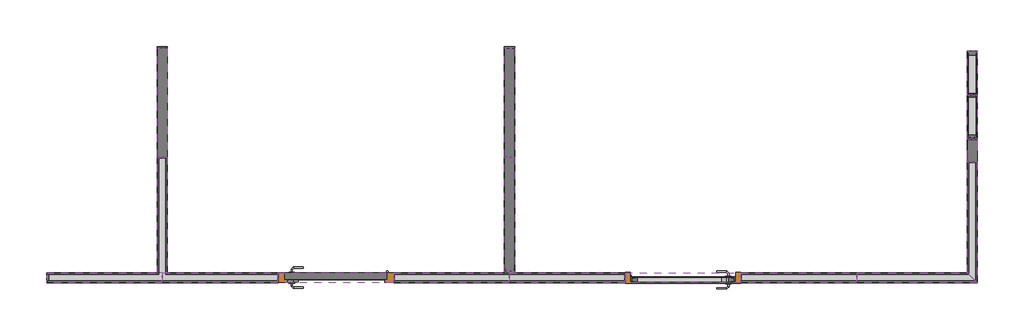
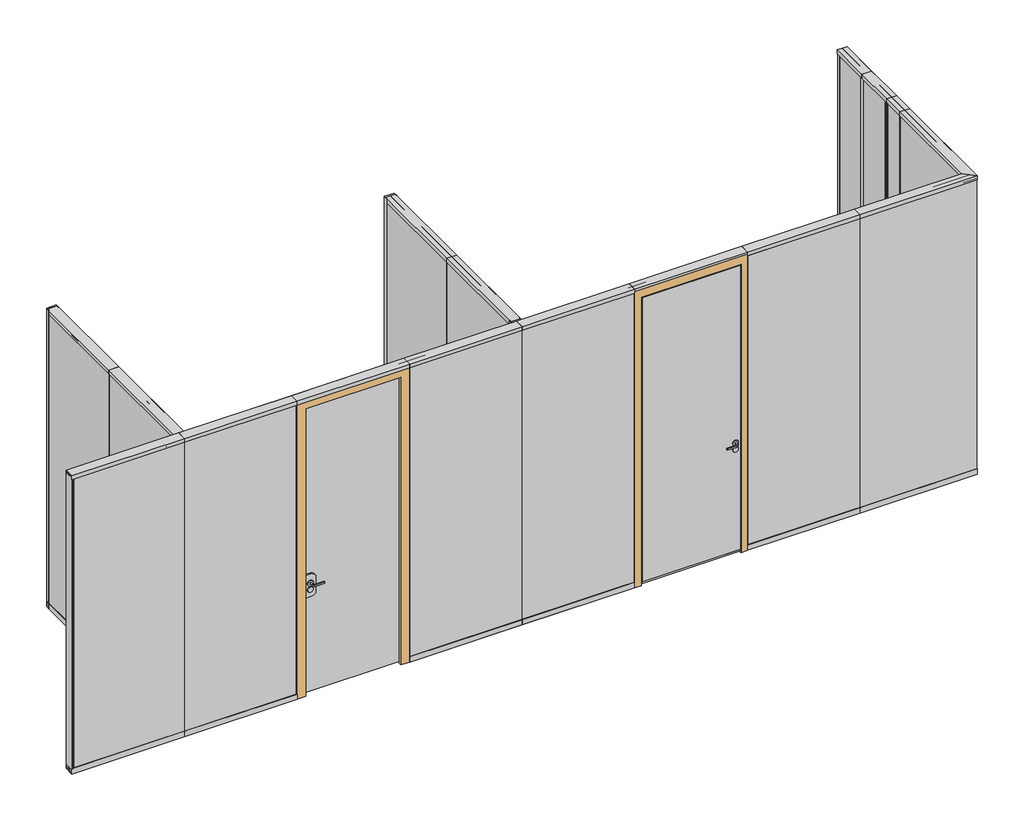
# One storey: 40 members, 17 plates, 2 doors, 2 proxies.
"""IFC4 building model written with IfcOpenShell, lengths in millimetres."""

from ifc_helpers import new_model, si_unit, origin, place, context, project, spatial, transform, mapped, element, save
from components import bat_m_2c35a260, bat_m_937d9498, door_9508b025, door_8205e40b, meneau_rectangulaire_2d9f5674, meneau_rectangulaire_78ad2c18, meneau_rectangulaire_5bdb3d18, meneau_rectangulaire_65ac8e74, meneau_rectangulaire_48ac8d12, meneau_rectangulaire_55831f8c, meneau_rectangulaire_785bb957, meneau_rectangulaire_8f6b654b, meneau_rectangulaire_af89d6a5, meneau_rectangulaire_d777ce07, meneau_rectangulaire_87e775cd, meneau_rectangulaire_e24a105a, meneau_rectangulaire_9d9a7ddc, meneau_rectangulaire_2559ebc3, meneau_rectangulaire_cce67675, meneau_rectangulaire_783a4c04, meneau_rectangulaire_caded4ee, meneau_rectangulaire_69d5cee0, meneau_rectangulaire_f0905f04, meneau_rectangulaire_246d8702, meneau_rectangulaire_07d762ce, plate_94_abm35_25a5ff41, plate_94_abm35_4c3a0673, plate_94_kdv1012_4d463fa8, plate_94_kdv1012_aea72202, plate_94_kdv1012_c7b27a3e, plate_94_kdv1012_bcc0c58b, plate_94_kdv1012_ecfa1b3f, plate_94_kdv1012_dc670d32, plate_94_kdv1012_924cdc59, plate_94_kdv1012_ec976c5c, plate_94_kdv6_8_e2feaf4b, plate_94_kdv6_8_428a1812, pnx_plein_94_m_92e32ffe, pnx_plein_94_m_255e5a5e, pnx_plein_94_m_e0bbc39c, pnx_plein_94_pm_9d71bff3

model = new_model("IFC4")

# Units and contexts
model_context = context("Model", 3, world=origin())
ifc_project = project(units=[si_unit("LENGTHUNIT", "METRE", prefix="MILLI")], contexts=[model_context])

# Site, building, storey
site = spatial("IfcSite", under=ifc_project)
building = spatial("IfcBuilding", under=site)
storey = spatial("IfcBuildingStorey", under=building, Name="Metropolines 1", Elevation=0.0)

# Proxies
placement = place(None, origin())
bat_m_shape = bat_m_2c35a260(model_context)
element("IfcBuildingElementProxy", 1, Name="BAT-M : 94-GOALFVITRE", ObjectType="BAT-M : 94-GOALFVITRE", at=placement, inside=storey, context=model_context, shape_type="MappedRepresentation", body=[
    mapped(bat_m_shape, transform((-8243.5546418, -1843.2812949, 0.0), x_axis=(1.0, 0.0, 0.0), y_axis=(0.0, 1.0, 0.0), z_axis=(0.0, 0.0, 1.0))),
])
bat_m_2_shape = bat_m_937d9498(model_context)
element("IfcBuildingElementProxy", 2, Name="BAT-M : 94-GODVF54", ObjectType="BAT-M : 94-GODVF54", at=placement, inside=storey, context=model_context, shape_type="MappedRepresentation", body=[
    mapped(bat_m_2_shape, transform((-6143.1546418, -1877.2812949, 0.0), x_axis=(-1.0, 0.0, 0.0), y_axis=(0.0, -1.0, 0.0), z_axis=(0.0, 0.0, 1.0))),
])

# Doors
door_shape = door_9508b025(model_context)
element("IfcDoor", 3, ObjectType="PNX_PORTE-N-PTH : 94-PTHC55", at=placement, inside=storey, context=model_context, shape_type="MappedRepresentation", body=[
    mapped(door_shape, transform((-8688.1546418, -1884.7812949, 0.0), x_axis=(1.0, 0.0, 0.0), y_axis=(0.0, 1.0, 0.0), z_axis=(0.0, 0.0, 1.0))),
])
door_2_shape = door_8205e40b(model_context)
element("IfcDoor", 4, ObjectType="PNX_PORTE-N-PTH : 94-PTHC61", at=placement, inside=storey, context=model_context, shape_type="MappedRepresentation", body=[
    mapped(door_2_shape, transform((-5688.1546418, -1884.7812949, 0.0), x_axis=(-1.0, 0.0, 0.0), y_axis=(0.0, -1.0, 0.0), z_axis=(0.0, 0.0, 1.0))),
])

# Members
meneau_rectangulaire_shape = meneau_rectangulaire_2d9f5674(model_context)
element("IfcMember", 5, ObjectType="Meneau rectangulaire : LISSERIE_PLAFOND_COIFFANTE 94-KLP00-P80-SD20ALU", at=placement, inside=storey, context=model_context, shape_type="MappedRepresentation", body=[
    mapped(meneau_rectangulaire_shape, transform((-10187.7546418, -843.6812949, 2800.0), x_axis=(0.0, 0.0, 1.0), y_axis=(1.0, 0.0, 0.0), z_axis=(0.0, 1.0, 0.0))),
])
meneau_rectangulaire_2_shape = meneau_rectangulaire_78ad2c18(model_context)
element("IfcMember", 6, ObjectType="Meneau rectangulaire : LISSERIE_SOL_COIFFANTE 94-KLS00-P80-SD41ALU", at=placement, inside=storey, context=model_context, shape_type="MappedRepresentation", body=[
    mapped(meneau_rectangulaire_2_shape, transform((-10187.7546418, -1843.2812949, 0.0), x_axis=(0.0, 0.0, -1.0), y_axis=(1.0, 0.0, 0.0), z_axis=(0.0, -1.0, 0.0))),
])
meneau_rectangulaire_3_shape = meneau_rectangulaire_5bdb3d18(model_context)
element("IfcMember", 7, ObjectType="Meneau rectangulaire : LISSERIE_PLAFOND_COIFFANTE 94-KLP00-P80-SD20ALU", at=placement, inside=storey, context=model_context, shape_type="MappedRepresentation", body=[
    mapped(meneau_rectangulaire_3_shape, transform((-9188.1546418, -1884.7812949, 2800.0), x_axis=(0.0, 0.0, 1.0), y_axis=(0.0, 1.0, 0.0), z_axis=(-1.0, 0.0, 0.0))),
])
meneau_rectangulaire_4_shape = meneau_rectangulaire_65ac8e74(model_context)
element("IfcMember", 8, ObjectType="Meneau rectangulaire : LISSERIE_PLAFOND_COIFFANTE 94-KLP00-P80-SD20ALU", at=placement, inside=storey, context=model_context, shape_type="MappedRepresentation", body=[
    mapped(meneau_rectangulaire_4_shape, transform((-3188.1546418, -884.3812949, 2800.0), x_axis=(0.0, 0.0, 1.0), y_axis=(-1.0, 0.0, 0.0), z_axis=(0.0, -1.0, 0.0))),
])
element("IfcMember", 9, ObjectType="Meneau rectangulaire : LISSERIE_PLAFOND_COIFFANTE 94-KLP00-P80-SD20ALU", at=placement, inside=storey, context=model_context, shape_type="MappedRepresentation", body=[
    mapped(meneau_rectangulaire_3_shape, transform((-5188.1546418, -1884.7812949, 2800.0), x_axis=(0.0, 0.0, 1.0), y_axis=(0.0, 1.0, 0.0), z_axis=(-1.0, 0.0, 0.0))),
])
element("IfcMember", 10, ObjectType="Meneau rectangulaire : LISSERIE_PLAFOND_COIFFANTE 94-KLP00-P80-SD20ALU", at=placement, inside=storey, context=model_context, shape_type="MappedRepresentation", body=[
    mapped(meneau_rectangulaire_3_shape, transform((-6188.1546418, -1884.7812949, 2800.0), x_axis=(0.0, 0.0, 1.0), y_axis=(0.0, 1.0, 0.0), z_axis=(-1.0, 0.0, 0.0))),
])
element("IfcMember", 11, ObjectType="Meneau rectangulaire : LISSERIE_PLAFOND_COIFFANTE 94-KLP00-P80-SD20ALU", at=placement, inside=storey, context=model_context, shape_type="MappedRepresentation", body=[
    mapped(meneau_rectangulaire_3_shape, transform((-7188.1546418, -1884.7812949, 2800.0), x_axis=(0.0, 0.0, 1.0), y_axis=(0.0, 1.0, 0.0), z_axis=(-1.0, 0.0, 0.0))),
])
element("IfcMember", 12, ObjectType="Meneau rectangulaire : LISSERIE_PLAFOND_COIFFANTE 94-KLP00-P80-SD20ALU", at=placement, inside=storey, context=model_context, shape_type="MappedRepresentation", body=[
    mapped(meneau_rectangulaire_3_shape, transform((-8188.1546418, -1884.7812949, 2800.0), x_axis=(0.0, 0.0, 1.0), y_axis=(0.0, 1.0, 0.0), z_axis=(-1.0, 0.0, 0.0))),
])
meneau_rectangulaire_5_shape = meneau_rectangulaire_48ac8d12(model_context)
element("IfcMember", 13, ObjectType="Meneau rectangulaire : LISSERIE_SOL_COIFFANTE 94-KLS00-P80-SD41ALU", at=placement, inside=storey, context=model_context, shape_type="MappedRepresentation", body=[
    mapped(meneau_rectangulaire_5_shape, transform((-6188.1546418, -1884.7812949, 0.0), x_axis=(0.0, 0.0, -1.0), y_axis=(0.0, 1.0, 0.0), z_axis=(1.0, 0.0, 0.0))),
])
element("IfcMember", 14, ObjectType="Meneau rectangulaire : LISSERIE_SOL_COIFFANTE 94-KLS00-P80-SD41ALU", at=placement, inside=storey, context=model_context, shape_type="MappedRepresentation", body=[
    mapped(meneau_rectangulaire_5_shape, transform((-4188.1546418, -1884.7812949, 0.0), x_axis=(0.0, 0.0, -1.0), y_axis=(0.0, 1.0, 0.0), z_axis=(1.0, 0.0, 0.0))),
])
element("IfcMember", 15, ObjectType="Meneau rectangulaire : LISSERIE_SOL_COIFFANTE 94-KLS00-P80-SD41ALU", at=placement, inside=storey, context=model_context, shape_type="MappedRepresentation", body=[
    mapped(meneau_rectangulaire_5_shape, transform((-10188.1546418, -1884.7812949, 0.0), x_axis=(0.0, 0.0, -1.0), y_axis=(0.0, 1.0, 0.0), z_axis=(1.0, 0.0, 0.0))),
])
meneau_rectangulaire_6_shape = meneau_rectangulaire_55831f8c(model_context)
element("IfcMember", 16, ObjectType="Meneau rectangulaire : LISSERIE_SOL_COIFFANTE 94-KLS00-P80-SD41ALU", at=placement, inside=storey, context=model_context, shape_type="MappedRepresentation", body=[
    mapped(meneau_rectangulaire_6_shape, transform((-7188.1546418, -1884.7812949, 0.0), x_axis=(0.0, 0.0, -1.0), y_axis=(0.0, 1.0, 0.0), z_axis=(1.0, 0.0, 0.0))),
])
element("IfcMember", 17, ObjectType="Meneau rectangulaire : LISSERIE_SOL_COIFFANTE 94-KLS00-P80-SD41ALU", at=placement, inside=storey, context=model_context, shape_type="MappedRepresentation", body=[
    mapped(meneau_rectangulaire_6_shape, transform((-9187.7546418, -1884.7812949, 0.0), x_axis=(0.0, 0.0, -1.0), y_axis=(0.0, 1.0, 0.0), z_axis=(1.0, 0.0, 0.0))),
])
element("IfcMember", 18, ObjectType="Meneau rectangulaire : LISSERIE_PLAFOND_COIFFANTE 94-KLP00-P80-SD20ALU", at=placement, inside=storey, context=model_context, shape_type="MappedRepresentation", body=[
    mapped(meneau_rectangulaire_3_shape, transform((-10188.1546418, -1884.7812949, 2800.0), x_axis=(0.0, 0.0, 1.0), y_axis=(0.0, 1.0, 0.0), z_axis=(-1.0, 0.0, 0.0))),
])
element("IfcMember", 19, ObjectType="Meneau rectangulaire : LISSERIE_PLAFOND_COIFFANTE 94-KLP00-P80-SD20ALU", at=placement, inside=storey, context=model_context, shape_type="MappedRepresentation", body=[
    mapped(meneau_rectangulaire_3_shape, transform((-11188.1546418, -1884.7812949, 2800.0), x_axis=(0.0, 0.0, 1.0), y_axis=(0.0, 1.0, 0.0), z_axis=(-1.0, 0.0, 0.0))),
])
meneau_rectangulaire_7_shape = meneau_rectangulaire_785bb957(model_context)
element("IfcMember", 20, ObjectType="Meneau rectangulaire : JONCTION-T1 94-T1", at=placement, inside=storey, context=model_context, shape_type="MappedRepresentation", body=[
    mapped(meneau_rectangulaire_7_shape, transform((-3188.1546418, -884.3812949, 50.0), x_axis=(0.0, -1.0, 0.0), y_axis=(-1.0, 0.0, 0.0), z_axis=(0.0, 0.0, -1.0))),
])
element("IfcMember", 21, ObjectType="Meneau rectangulaire : JONCTION-T1 94-T1", at=placement, inside=storey, context=model_context, shape_type="MappedRepresentation", body=[
    mapped(meneau_rectangulaire_7_shape, transform((-8188.1546418, -1884.7812949, 50.0), x_axis=(-1.0, 0.0, 0.0), y_axis=(0.0, 1.0, 0.0), z_axis=(0.0, 0.0, -1.0))),
])
element("IfcMember", 22, ObjectType="Meneau rectangulaire : JONCTION-T1 94-T1", at=placement, inside=storey, context=model_context, shape_type="MappedRepresentation", body=[
    mapped(meneau_rectangulaire_7_shape, transform((-9188.1546418, -1884.7812949, 50.0), x_axis=(-1.0, 0.0, 0.0), y_axis=(0.0, 1.0, 0.0), z_axis=(0.0, 0.0, -1.0))),
])
element("IfcMember", 23, ObjectType="Meneau rectangulaire : JONCTION-T1 94-T1", at=placement, inside=storey, context=model_context, shape_type="MappedRepresentation", body=[
    mapped(meneau_rectangulaire_7_shape, transform((-10187.7546418, -843.6812949, 50.0), x_axis=(0.0, 1.0, 0.0), y_axis=(1.0, 0.0, 0.0), z_axis=(0.0, 0.0, -1.0))),
])
element("IfcMember", 24, ObjectType="Meneau rectangulaire : JONCTION-T1 94-T1", at=placement, inside=storey, context=model_context, shape_type="MappedRepresentation", body=[
    mapped(meneau_rectangulaire_7_shape, transform((-7188.1546418, -843.6812949, 50.0), x_axis=(0.0, 1.0, 0.0), y_axis=(1.0, 0.0, 0.0), z_axis=(0.0, 0.0, -1.0))),
])
element("IfcMember", 25, ObjectType="Meneau rectangulaire : JONCTION-T1 94-T1", at=placement, inside=storey, context=model_context, shape_type="MappedRepresentation", body=[
    mapped(meneau_rectangulaire_7_shape, transform((-10187.7546418, 101.7187051, 50.0), x_axis=(0.0, 1.0, 0.0), y_axis=(1.0, 0.0, 0.0), z_axis=(0.0, 0.0, -1.0))),
])
element("IfcMember", 26, ObjectType="Meneau rectangulaire : JONCTION-T1 94-T1", at=placement, inside=storey, context=model_context, shape_type="MappedRepresentation", body=[
    mapped(meneau_rectangulaire_7_shape, transform((-7188.1546418, 100.2187051, 50.0), x_axis=(0.0, 1.0, 0.0), y_axis=(1.0, 0.0, 0.0), z_axis=(0.0, 0.0, -1.0))),
])
element("IfcMember", 27, ObjectType="Meneau rectangulaire : JONCTION-T1 94-T1", at=placement, inside=storey, context=model_context, shape_type="MappedRepresentation", body=[
    mapped(meneau_rectangulaire_7_shape, transform((-7188.1546418, -1828.2812949, 50.0), x_axis=(0.0, 1.0, 0.0), y_axis=(1.0, 0.0, 0.0), z_axis=(0.0, 0.0, -1.0))),
])
meneau_rectangulaire_8_shape = meneau_rectangulaire_8f6b654b(model_context)
element("IfcMember", 28, ObjectType="Meneau rectangulaire : LISSERIE_PLAFOND_COIFFANTE 94-KLP00-P80-SD20ALU", at=placement, inside=storey, context=model_context, shape_type="MappedRepresentation", body=[
    mapped(meneau_rectangulaire_8_shape, transform((-3188.1546418, -1884.7812949, 2800.0), x_axis=(0.0, 0.0, 1.0), y_axis=(-1.0, 0.0, 0.0), z_axis=(0.0, -1.0, 0.0))),
])
meneau_rectangulaire_9_shape = meneau_rectangulaire_af89d6a5(model_context)
element("IfcMember", 29, ObjectType="Meneau rectangulaire : LISSERIE_PLAFOND_COIFFANTE 94-KLP00-P80-SD20ALU", at=placement, inside=storey, context=model_context, shape_type="MappedRepresentation", body=[
    mapped(meneau_rectangulaire_9_shape, transform((-4188.1546418, -1884.7812949, 2800.0), x_axis=(0.0, 0.0, 1.0), y_axis=(0.0, 1.0, 0.0), z_axis=(-1.0, 0.0, 0.0))),
])
meneau_rectangulaire_10_shape = meneau_rectangulaire_d777ce07(model_context)
element("IfcMember", 30, ObjectType="Meneau rectangulaire : LISSERIE_SOL_COIFFANTE 94-KLS00-P80-SD41ALU", at=placement, inside=storey, context=model_context, shape_type="MappedRepresentation", body=[
    mapped(meneau_rectangulaire_10_shape, transform((-3188.1546418, -684.3812949, 0.0), x_axis=(0.0, 0.0, -1.0), y_axis=(-1.0, 0.0, 0.0), z_axis=(0.0, 1.0, 0.0))),
])
meneau_rectangulaire_11_shape = meneau_rectangulaire_87e775cd(model_context)
element("IfcMember", 31, ObjectType="Meneau rectangulaire : LISSERIE_SOL_COIFFANTE 94-KLS00-P80-SD41ALU", at=placement, inside=storey, context=model_context, shape_type="MappedRepresentation", body=[
    mapped(meneau_rectangulaire_11_shape, transform((-3188.1546418, -1884.7812949, 0.0), x_axis=(0.0, 0.0, -1.0), y_axis=(0.0, 1.0, 0.0), z_axis=(1.0, 0.0, 0.0))),
])
meneau_rectangulaire_12_shape = meneau_rectangulaire_e24a105a(model_context)
element("IfcMember", 32, ObjectType="Meneau rectangulaire : LISSERIE_SOL_COIFFANTE 94-KLS00-P80-SD41ALU", at=placement, inside=storey, context=model_context, shape_type="MappedRepresentation", body=[
    mapped(meneau_rectangulaire_12_shape, transform((-3188.1546418, -884.3812949, 0.0), x_axis=(0.0, 0.0, -1.0), y_axis=(-1.0, 0.0, 0.0), z_axis=(0.0, 1.0, 0.0))),
])
meneau_rectangulaire_13_shape = meneau_rectangulaire_9d9a7ddc(model_context)
element("IfcMember", 33, ObjectType="Meneau rectangulaire : LISSERIE_SOL_COIFFANTE 94-KLS00-P80-SD41ALU", at=placement, inside=storey, context=model_context, shape_type="MappedRepresentation", body=[
    mapped(meneau_rectangulaire_13_shape, transform((-10187.7546418, -843.6812949, 0.0), x_axis=(0.0, 0.0, -1.0), y_axis=(1.0, 0.0, 0.0), z_axis=(0.0, -1.0, 0.0))),
])
meneau_rectangulaire_14_shape = meneau_rectangulaire_2559ebc3(model_context)
element("IfcMember", 34, ObjectType="Meneau rectangulaire : LISSERIE_PLAFOND_COIFFANTE 94-KLP00-P80-SD20ALU", at=placement, inside=storey, context=model_context, shape_type="MappedRepresentation", body=[
    mapped(meneau_rectangulaire_14_shape, transform((-10187.7546418, 102.1187051, 2800.0), x_axis=(0.0, 0.0, 1.0), y_axis=(1.0, 0.0, 0.0), z_axis=(0.0, 1.0, 0.0))),
])
meneau_rectangulaire_15_shape = meneau_rectangulaire_cce67675(model_context)
element("IfcMember", 35, ObjectType="Meneau rectangulaire : LISSERIE_SOL_COIFFANTE 94-KLS00-P80-SD41ALU", at=placement, inside=storey, context=model_context, shape_type="MappedRepresentation", body=[
    mapped(meneau_rectangulaire_15_shape, transform((-7188.1546418, -843.6812949, 0.0), x_axis=(0.0, 0.0, -1.0), y_axis=(1.0, 0.0, 0.0), z_axis=(0.0, -1.0, 0.0))),
])
meneau_rectangulaire_16_shape = meneau_rectangulaire_783a4c04(model_context)
element("IfcMember", 36, ObjectType="Meneau rectangulaire : LISSERIE_PLAFOND_COIFFANTE 94-KLP00-P80-SD20ALU", at=placement, inside=storey, context=model_context, shape_type="MappedRepresentation", body=[
    mapped(meneau_rectangulaire_16_shape, transform((-7188.1546418, 100.6187051, 2800.0), x_axis=(0.0, 0.0, 1.0), y_axis=(1.0, 0.0, 0.0), z_axis=(0.0, 1.0, 0.0))),
])
meneau_rectangulaire_17_shape = meneau_rectangulaire_caded4ee(model_context)
element("IfcMember", 37, ObjectType="Meneau rectangulaire : LISSERIE_SOL_COIFFANTE 94-KLS00-P80-SD41ALU", at=placement, inside=storey, context=model_context, shape_type="MappedRepresentation", body=[
    mapped(meneau_rectangulaire_17_shape, transform((-7188.1546418, -1828.6812949, 0.0), x_axis=(0.0, 0.0, -1.0), y_axis=(1.0, 0.0, 0.0), z_axis=(0.0, -1.0, 0.0))),
])
meneau_rectangulaire_18_shape = meneau_rectangulaire_69d5cee0(model_context)
element("IfcMember", 38, ObjectType="Meneau rectangulaire : LISSERIE_PLAFOND_COIFFANTE 94-KLP00-P80-SD20ALU", at=placement, inside=storey, context=model_context, shape_type="MappedRepresentation", body=[
    mapped(meneau_rectangulaire_18_shape, transform((-7188.1546418, -843.6812949, 2800.0), x_axis=(0.0, 0.0, 1.0), y_axis=(1.0, 0.0, 0.0), z_axis=(0.0, 1.0, 0.0))),
])
meneau_rectangulaire_19_shape = meneau_rectangulaire_f0905f04(model_context)
element("IfcMember", 39, ObjectType="Meneau rectangulaire : JONCTION-T1-PA 94-KT1PA", at=placement, inside=storey, context=model_context, shape_type="MappedRepresentation", body=[
    mapped(meneau_rectangulaire_19_shape, transform((-3188.1546418, -684.3812949, 50.0), x_axis=(0.0, -1.0, 0.0), y_axis=(-1.0, 0.0, 0.0), z_axis=(0.0, 0.0, -1.0))),
])
element("IfcMember", 40, ObjectType="Meneau rectangulaire : JONCTION-T1-PA 94-KT1PA", at=placement, inside=storey, context=model_context, shape_type="MappedRepresentation", body=[
    mapped(meneau_rectangulaire_19_shape, transform((-3188.1546418, -304.5812949, 50.0), x_axis=(0.0, -1.0, 0.0), y_axis=(-1.0, 0.0, 0.0), z_axis=(0.0, 0.0, -1.0))),
])
meneau_rectangulaire_20_shape = meneau_rectangulaire_246d8702(model_context)
element("IfcMember", 41, ObjectType="Meneau rectangulaire : LISSERIE_PLAFOND_COIFFANTE 94-KLP00-P80-SD20ALU", at=placement, inside=storey, context=model_context, shape_type="MappedRepresentation", body=[
    mapped(meneau_rectangulaire_20_shape, transform((-3188.1546418, -304.5812949, 2800.0), x_axis=(0.0, 0.0, 1.0), y_axis=(-1.0, 0.0, 0.0), z_axis=(0.0, -1.0, 0.0))),
])
meneau_rectangulaire_21_shape = meneau_rectangulaire_07d762ce(model_context)
element("IfcMember", 42, ObjectType="Meneau rectangulaire : LISSERIE_SOL_COIFFANTE 94-KLS00-P80-SD41ALU", at=placement, inside=storey, context=model_context, shape_type="MappedRepresentation", body=[
    mapped(meneau_rectangulaire_21_shape, transform((-3188.1546418, 75.2187051, 0.0), x_axis=(0.0, 0.0, -1.0), y_axis=(-1.0, 0.0, 0.0), z_axis=(0.0, 1.0, 0.0))),
])
element("IfcMember", 43, ObjectType="Meneau rectangulaire : LISSERIE_PLAFOND_COIFFANTE 94-KLP00-P80-SD20ALU", at=placement, inside=storey, context=model_context, shape_type="MappedRepresentation", body=[
    mapped(meneau_rectangulaire_20_shape, transform((-3188.1546418, -684.3812949, 2800.0), x_axis=(0.0, 0.0, 1.0), y_axis=(-1.0, 0.0, 0.0), z_axis=(0.0, -1.0, 0.0))),
])
element("IfcMember", 44, ObjectType="Meneau rectangulaire : LISSERIE_SOL_COIFFANTE 94-KLS00-P80-SD41ALU", at=placement, inside=storey, context=model_context, shape_type="MappedRepresentation", body=[
    mapped(meneau_rectangulaire_21_shape, transform((-3188.1546418, -304.5812949, 0.0), x_axis=(0.0, 0.0, -1.0), y_axis=(-1.0, 0.0, 0.0), z_axis=(0.0, 1.0, 0.0))),
])

# Plates
plate_94_abm35_shape = plate_94_abm35_25a5ff41(model_context)
element("IfcPlate", 45, ObjectType="PERIPH-ABM_U-MUR-M : 94-ABM35", at=placement, inside=storey, context=model_context, shape_type="MappedRepresentation", body=[
    mapped(plate_94_abm35_shape, transform((-10187.7546418, 109.4187051, 0.0), x_axis=(0.0, -1.0, 0.0), y_axis=(1.0, 0.0, 0.0), z_axis=(0.0, 0.0, 1.0))),
])
element("IfcPlate", 46, ObjectType="PERIPH-ABM_U-MUR-M : 94-ABM35", at=placement, inside=storey, context=model_context, shape_type="MappedRepresentation", body=[
    mapped(plate_94_abm35_shape, transform((-7188.1546418, 107.9187051, 0.0), x_axis=(0.0, -1.0, 0.0), y_axis=(1.0, 0.0, 0.0), z_axis=(0.0, 0.0, 1.0))),
])
plate_94_abm35_2_shape = plate_94_abm35_4c3a0673(model_context)
element("IfcPlate", 47, ObjectType="PERIPH-ABM_U-MUR-M : 94-ABM35", at=placement, inside=storey, context=model_context, shape_type="MappedRepresentation", body=[
    mapped(plate_94_abm35_2_shape, transform((-7188.1546418, -1835.9812949, 0.0), x_axis=(0.0, 1.0, 0.0), y_axis=(-1.0, 0.0, 0.0), z_axis=(0.0, 0.0, 1.0))),
])
plate_94_kdv1012_shape = plate_94_kdv1012_4d463fa8(model_context)
element("IfcPlate", 48, ObjectType="PNX_VITRE_DV : 94-KDV1012", at=placement, inside=storey, context=model_context, shape_type="MappedRepresentation", body=[
    mapped(plate_94_kdv1012_shape, transform((-10187.7546418, -1343.6812949, 41.0), x_axis=(0.0, 1.0, 0.0), y_axis=(-1.0, 0.0, 0.0), z_axis=(0.0, 0.0, 1.0))),
])
plate_94_kdv1012_2_shape = plate_94_kdv1012_aea72202(model_context)
element("IfcPlate", 49, ObjectType="PNX_VITRE_DV : 94-KDV1012", at=placement, inside=storey, context=model_context, shape_type="MappedRepresentation", body=[
    mapped(plate_94_kdv1012_2_shape, transform((-3188.1546418, -1384.7812949, 41.0), x_axis=(0.0, -1.0, 0.0), y_axis=(1.0, 0.0, 0.0), z_axis=(0.0, 0.0, 1.0))),
])
plate_94_kdv1012_3_shape = plate_94_kdv1012_c7b27a3e(model_context)
element("IfcPlate", 50, ObjectType="PNX_VITRE_DV : 94-KDV1012", at=placement, inside=storey, context=model_context, shape_type="MappedRepresentation", body=[
    mapped(plate_94_kdv1012_3_shape, transform((-10688.1546418, -1884.7812949, 41.0), x_axis=(-1.0, 0.0, 0.0), y_axis=(0.0, -1.0, 0.0), z_axis=(0.0, 0.0, 1.0))),
])
plate_94_kdv1012_4_shape = plate_94_kdv1012_bcc0c58b(model_context)
element("IfcPlate", 51, ObjectType="PNX_VITRE_DV : 94-KDV1012", at=placement, inside=storey, context=model_context, shape_type="MappedRepresentation", body=[
    mapped(plate_94_kdv1012_4_shape, transform((-9688.3546418, -1884.7812949, 41.0), x_axis=(-1.0, 0.0, 0.0), y_axis=(0.0, -1.0, 0.0), z_axis=(0.0, 0.0, 1.0))),
])
plate_94_kdv1012_5_shape = plate_94_kdv1012_ecfa1b3f(model_context)
element("IfcPlate", 52, ObjectType="PNX_VITRE_DV : 94-KDV1012", at=placement, inside=storey, context=model_context, shape_type="MappedRepresentation", body=[
    mapped(plate_94_kdv1012_5_shape, transform((-7687.9546418, -1884.7812949, 41.0), x_axis=(-1.0, 0.0, 0.0), y_axis=(0.0, -1.0, 0.0), z_axis=(0.0, 0.0, 1.0))),
])
plate_94_kdv1012_6_shape = plate_94_kdv1012_dc670d32(model_context)
element("IfcPlate", 53, ObjectType="PNX_VITRE_DV : 94-KDV1012", at=placement, inside=storey, context=model_context, shape_type="MappedRepresentation", body=[
    mapped(plate_94_kdv1012_6_shape, transform((-6688.1546418, -1884.7812949, 41.0), x_axis=(-1.0, 0.0, 0.0), y_axis=(0.0, -1.0, 0.0), z_axis=(0.0, 0.0, 1.0))),
])
plate_94_kdv1012_7_shape = plate_94_kdv1012_924cdc59(model_context)
element("IfcPlate", 54, ObjectType="PNX_VITRE_DV : 94-KDV1012", at=placement, inside=storey, context=model_context, shape_type="MappedRepresentation", body=[
    mapped(plate_94_kdv1012_7_shape, transform((-4688.1546418, -1884.7812949, 41.0), x_axis=(-1.0, 0.0, 0.0), y_axis=(0.0, -1.0, 0.0), z_axis=(0.0, 0.0, 1.0))),
])
plate_94_kdv1012_8_shape = plate_94_kdv1012_ec976c5c(model_context)
element("IfcPlate", 55, ObjectType="PNX_VITRE_DV : 94-KDV1012", at=placement, inside=storey, context=model_context, shape_type="MappedRepresentation", body=[
    mapped(plate_94_kdv1012_8_shape, transform((-3688.1546418, -1884.7812949, 41.0), x_axis=(-1.0, 0.0, 0.0), y_axis=(0.0, -1.0, 0.0), z_axis=(0.0, 0.0, 1.0))),
])
plate_94_kdv6_8_shape = plate_94_kdv6_8_e2feaf4b(model_context)
element("IfcPlate", 56, ObjectType="PNX_VITRE_DV : 94-KDV6_8", at=placement, inside=storey, context=model_context, shape_type="MappedRepresentation", body=[
    mapped(plate_94_kdv6_8_shape, transform((-3188.1546418, -111.1812949, 41.0), x_axis=(0.0, -1.0, 0.0), y_axis=(1.0, 0.0, 0.0), z_axis=(0.0, 0.0, 1.0))),
])
plate_94_kdv6_8_2_shape = plate_94_kdv6_8_428a1812(model_context)
element("IfcPlate", 57, ObjectType="PNX_VITRE_DV : 94-KDV6_8", at=placement, inside=storey, context=model_context, shape_type="MappedRepresentation", body=[
    mapped(plate_94_kdv6_8_2_shape, transform((-3188.1546418, -494.4812949, 41.0), x_axis=(0.0, -1.0, 0.0), y_axis=(1.0, 0.0, 0.0), z_axis=(0.0, 0.0, 1.0))),
])
pnx_plein_94_m_shape = pnx_plein_94_m_92e32ffe(model_context)
element("IfcPlate", 58, ObjectType="PNX_PLEIN : 94-M", at=placement, inside=storey, context=model_context, shape_type="MappedRepresentation", body=[
    mapped(pnx_plein_94_m_shape, transform((-10187.7546418, -370.9812949, 41.0), x_axis=(0.0, 1.0, 0.0), y_axis=(-1.0, 0.0, 0.0), z_axis=(0.0, 0.0, 1.0))),
])
pnx_plein_94_m_2_shape = pnx_plein_94_m_255e5a5e(model_context)
element("IfcPlate", 59, ObjectType="PNX_PLEIN : 94-M", at=placement, inside=storey, context=model_context, shape_type="MappedRepresentation", body=[
    mapped(pnx_plein_94_m_2_shape, transform((-7188.1546418, -371.7312949, 41.0), x_axis=(0.0, 1.0, 0.0), y_axis=(-1.0, 0.0, 0.0), z_axis=(0.0, 0.0, 1.0))),
])
pnx_plein_94_m_3_shape = pnx_plein_94_m_e0bbc39c(model_context)
element("IfcPlate", 60, ObjectType="PNX_PLEIN : 94-M", at=placement, inside=storey, context=model_context, shape_type="MappedRepresentation", body=[
    mapped(pnx_plein_94_m_3_shape, transform((-7188.1546418, -1335.9812949, 41.0), x_axis=(0.0, 1.0, 0.0), y_axis=(-1.0, 0.0, 0.0), z_axis=(0.0, 0.0, 1.0))),
])
pnx_plein_94_pm_shape = pnx_plein_94_pm_9d71bff3(model_context)
element("IfcPlate", 61, ObjectType="PNX_PLEIN : 94-PM", at=placement, inside=storey, context=model_context, shape_type="MappedRepresentation", body=[
    mapped(pnx_plein_94_pm_shape, transform((-3188.1546418, -787.6812949, 41.0), x_axis=(0.0, -1.0, 0.0), y_axis=(1.0, 0.0, 0.0), z_axis=(0.0, 0.0, 1.0))),
])

save(model, "model.ifc")
